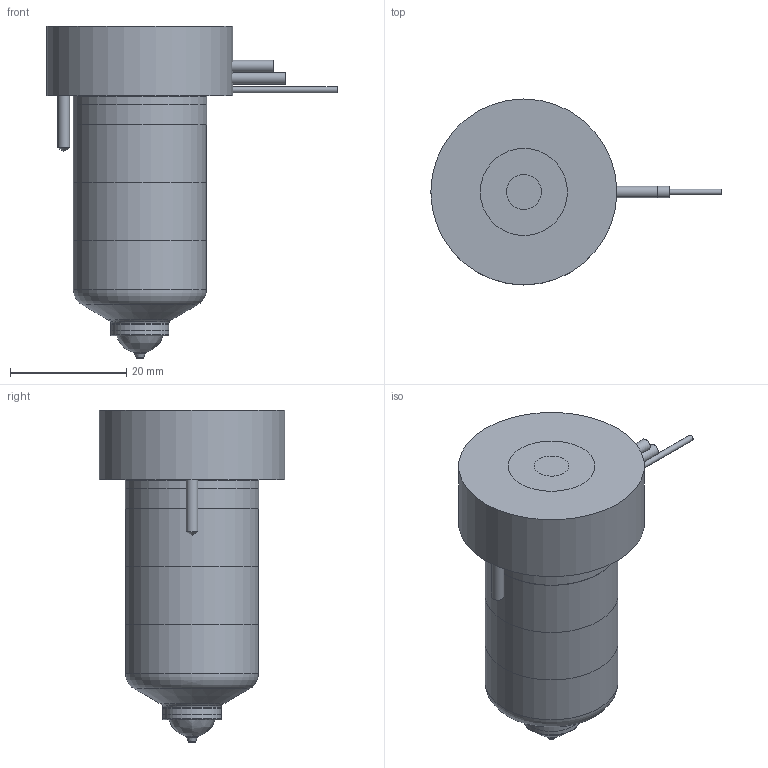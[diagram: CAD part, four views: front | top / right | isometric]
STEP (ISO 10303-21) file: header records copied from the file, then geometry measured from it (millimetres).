
FILE_DESCRIPTION(/* description */ (''),/* implementation_level */ '2;1');
FILE_NAME(/* name */ 'MXOV13045_250C_b',/* time_stamp */ '2007-01-18T09:49:33+13:00',/* author */ (''),/* organization */ (''),/* preprocessor_version */ 'ST-DEVELOPER v9',/* originating_system */ 'UGS - NX 4.0',/* authorisation */ '');
FILE_SCHEMA (('CONFIG_CONTROL_DESIGN'));
Length unit declared in the file: millimetre
Products named in the file (1): MXOV13045_250C_b
Bounding box: 49.95 x 32 x 57.15 mm (x, y, z)
Volume: 46225 mm3; surface area: 12551.5 mm2
Topology: 7 solids, 7 shells, 90 faces, 170 edges, 108 vertices
Faces by surface type: plane 37, cylinder 29, cone 13, torus 8, bspline 3
Full cylindrical faces by diameter (mm): 1 x3, 2 x5, 6 x1, 6.4 x1, 6.5 x1, 9.61 x1, 10.01 x2, 12.6 x1, 18.8 x1, 22.9 x2, 23 x2, 32 x1
Entity records: 2168 total; most frequent: CARTESIAN_POINT 462, DIRECTION 366, ORIENTED_EDGE 236, AXIS2_PLACEMENT_3D 170, EDGE_LOOP 146, EDGE_CURVE 118, VERTEX_POINT 99, ADVANCED_FACE 90
